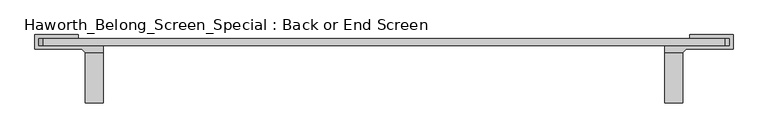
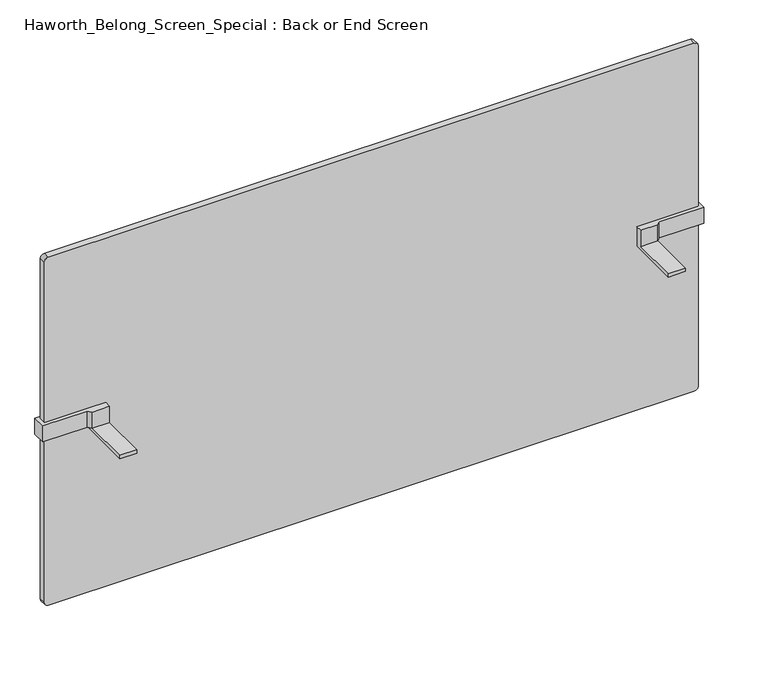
"""IFC4 building model written with IfcOpenShell, lengths in millimetres: furniture geometry, Haworth_Belong_Screen_Special : Back or End Screen."""

from ifc_helpers import new_model, si_unit, point, frame, frame_2d, origin, place, context, project, spatial, polyline, circle_curve, trimmed, segment, composite_curve, outline, extrude, faceted_brep, source, transform, mapped, element, save


def haworth_belong_screen_special_back_or_end_screen_09786dff(model_context):
    return source(origin(), model_context, "Body", "SolidModel", [
        faceted_brep([(-527.9645436, -6.35, 700.0875), (-527.9645436, -6.35, 738.1875), (-527.9645436, -19.05, 738.1875), (-527.9645436, -19.05, 706.4375), (-527.9645436, -107.95, 706.4375), (-527.9645436, -107.95, 700.0875), (-559.7145436, -107.95, 706.4375), (-559.7145436, -19.05, 706.4375), (-559.7145436, -6.35, 706.4375), (-559.7145436, -6.35, 700.0875), (-559.7145436, -107.95, 700.0875), (-642.2645436, -6.35, 706.4375), (-642.2645436, -6.35, 738.1875), (-642.2645436, 6.35, 738.1875), (-572.4145436, 6.35, 738.1875), (-572.4145436, 12.7, 738.1875), (-648.6145436, 12.7, 738.1875), (-648.6145436, -12.7, 738.1875), (-566.0645436, -12.7, 738.1875), (-559.7145436, -19.05, 738.1875), (-642.2645436, 6.35, 706.4375), (-566.0645436, -12.7, 706.4375), (-648.6145436, -12.7, 706.4375), (-648.6145436, 12.7, 706.4375), (-572.4145436, 12.7, 706.4375), (-572.4145436, 6.35, 706.4375)], [[[0, 1, 2, 3, 4, 5]], [[6, 7, 8, 9, 10]], [[4, 3, 7, 6]], [[0, 9, 8, 11, 12, 1]], [[5, 10, 9, 0]], [[4, 6, 10, 5]], [[13, 14, 15, 16, 17, 18, 19, 2, 1, 12]], [[20, 11, 8, 7, 21, 22, 23, 24, 25]], [[12, 11, 20, 13]], [[19, 7, 3, 2]], [[18, 21, 7, 19]], [[17, 22, 21, 18]], [[16, 23, 22, 17]], [[15, 24, 23, 16]], [[14, 25, 24, 15]], [[13, 20, 25, 14]]]),
        faceted_brep([(462.6354564, -107.95, 706.4375), (462.6354564, -19.05, 706.4375), (462.6354564, -19.05, 738.1875), (462.6354564, -6.35, 738.1875), (462.6354564, -6.35, 700.0875), (462.6354564, -107.95, 700.0875), (494.3854564, -6.35, 706.4375), (494.3854564, -19.05, 706.4375), (494.3854564, -107.95, 706.4375), (494.3854564, -107.95, 700.0875), (494.3854564, -6.35, 700.0875), (576.9354564, -6.35, 738.1875), (576.9354564, -6.35, 706.4375), (494.3854564, -19.05, 738.1875), (500.7354564, -12.7, 738.1875), (583.2854564, -12.7, 738.1875), (583.2854564, 12.7, 738.1875), (507.0854564, 12.7, 738.1875), (507.0854564, 6.35, 738.1875), (576.9354564, 6.35, 738.1875), (576.9354564, 6.35, 706.4375), (507.0854564, 6.35, 706.4375), (507.0854564, 12.7, 706.4375), (583.2854564, 12.7, 706.4375), (583.2854564, -12.7, 706.4375), (500.7354564, -12.7, 706.4375)], [[[0, 1, 2, 3, 4, 5]], [[6, 7, 8, 9, 10]], [[5, 9, 8, 0]], [[4, 10, 9, 5]], [[3, 11, 12, 6, 10, 4]], [[8, 7, 1, 0]], [[11, 3, 2, 13, 14, 15, 16, 17, 18, 19]], [[7, 6, 12, 20, 21, 22, 23, 24, 25]], [[14, 25, 24, 15]], [[15, 24, 23, 16]], [[16, 23, 22, 17]], [[17, 22, 21, 18]], [[18, 21, 20, 19]], [[19, 20, 12, 11]], [[2, 1, 7, 13]], [[13, 7, 25, 14]]]),
        extrude(outline(composite_curve([segment(polyline([(1062.0375, 568.9979564), (1062.0375, -634.3270436)]), True, "CONTINUOUS"), segment(trimmed(circle_curve(frame_2d((1054.1, -634.3270436)), 7.9375), [point((1062.0375, -634.3270436))], [point((1054.1, -642.2645436))], False, "CARTESIAN"), True, "CONTINUOUS"), segment(polyline([(1054.1, -642.2645436), (384.175, -642.2645436)]), True, "CONTINUOUS"), segment(trimmed(circle_curve(frame_2d((384.175, -634.3270436)), 7.9375), [point((384.175, -642.2645436))], [point((376.2375, -634.3270436))], False, "CARTESIAN"), True, "CONTINUOUS"), segment(polyline([(376.2375, -634.3270436), (376.2375, 568.9979564)]), True, "CONTINUOUS"), segment(trimmed(circle_curve(frame_2d((384.175, 568.9979564)), 7.9375), [point((376.2375, 568.9979564))], [point((384.175, 576.9354564))], False, "CARTESIAN"), True, "CONTINUOUS"), segment(polyline([(384.175, 576.9354564), (1054.1, 576.9354564)]), True, "CONTINUOUS"), segment(trimmed(circle_curve(frame_2d((1054.1, 568.9979564)), 7.9375), [point((1054.1, 576.9354564))], [point((1062.0375, 568.9979564))], False, "CARTESIAN"), True, "CONTINUOUS")], self_intersect=False)), frame((0.0, -6.35, 0.0), z_axis=(0.0, 1.0, 0.0), x_axis=(0.0, 0.0, 1.0)), (0.0, 0.0, 1.0), 12.7),
    ])


if __name__ == "__main__":
    model = new_model("IFC4")
    model_context = context("Model", 3, world=origin())
    ifc_project = project(units=[si_unit("LENGTHUNIT", "METRE", prefix="MILLI")], contexts=[model_context])
    site = spatial("IfcSite", under=ifc_project)
    building = spatial("IfcBuilding", under=site)
    placement = place(None, origin())
    haworth_belong_screen_special_back_or_end_screen_shape = haworth_belong_screen_special_back_or_end_screen_09786dff(model_context)
    element("IfcFurniture", 1, ObjectType="Haworth_Belong_Screen_Special : Back or End Screen", at=placement, inside=building, context=model_context, shape_type="MappedRepresentation", body=[
        mapped(haworth_belong_screen_special_back_or_end_screen_shape, transform((0.0, 0.0, 0.0), x_axis=(1.0, 0.0, 0.0), y_axis=(0.0, 1.0, 0.0), z_axis=(0.0, 0.0, 1.0))),
    ])
    save(model, "model.ifc")
